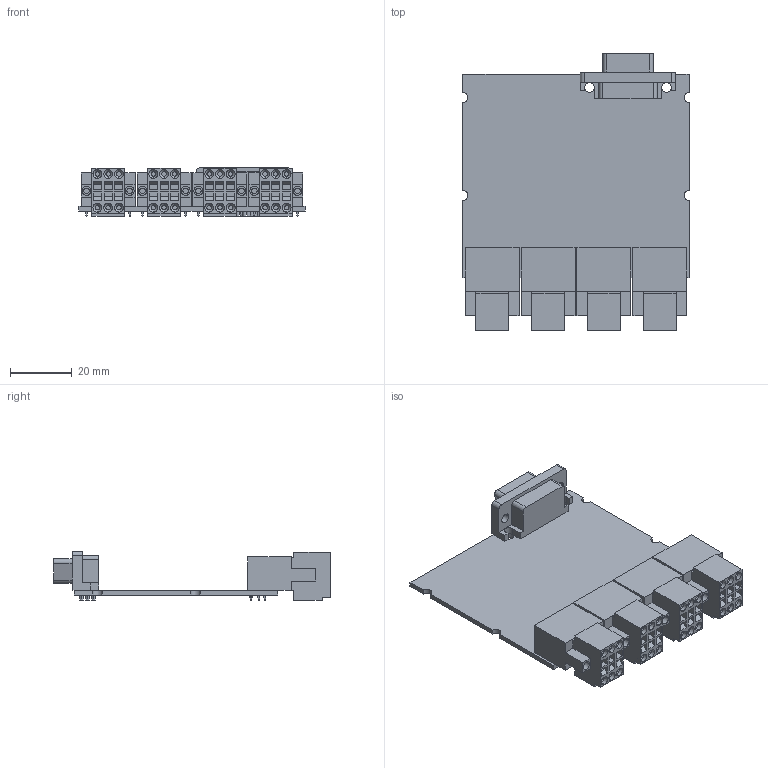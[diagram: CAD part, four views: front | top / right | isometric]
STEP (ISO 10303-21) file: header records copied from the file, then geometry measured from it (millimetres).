
FILE_DESCRIPTION((''),'2;1');
FILE_NAME('CD_NI_9219E','2010-02-02T',('scarrasc'),(''),'PRO/ENGINEER BY PARAMETRIC TECHNOLOGY CORPORATION, 2006080','PRO/ENGINEER BY PARAMETRIC TECHNOLOGY CORPORATION, 2006080','');
FILE_SCHEMA(('CONFIG_CONTROL_DESIGN'));
Length unit declared in the file: inch
Products named in the file (1): CD_NI_9219E
Bounding box: 73.38 x 89.79 x 15.85 mm (x, y, z)
Volume: 29287 mm3; surface area: 20207 mm2
Topology: 1 solids, 1 shells, 1018 faces, 2564 edges, 1674 vertices
Faces by surface type: plane 632, cylinder 338, cone 48
Entity records: 30364 total; most frequent: CARTESIAN_POINT 5824, ORIENTED_EDGE 5128, DIRECTION 4896, EDGE_CURVE 2564, VECTOR 1756, LINE 1756, VERTEX_POINT 1674, AXIS2_PLACEMENT_3D 1570
